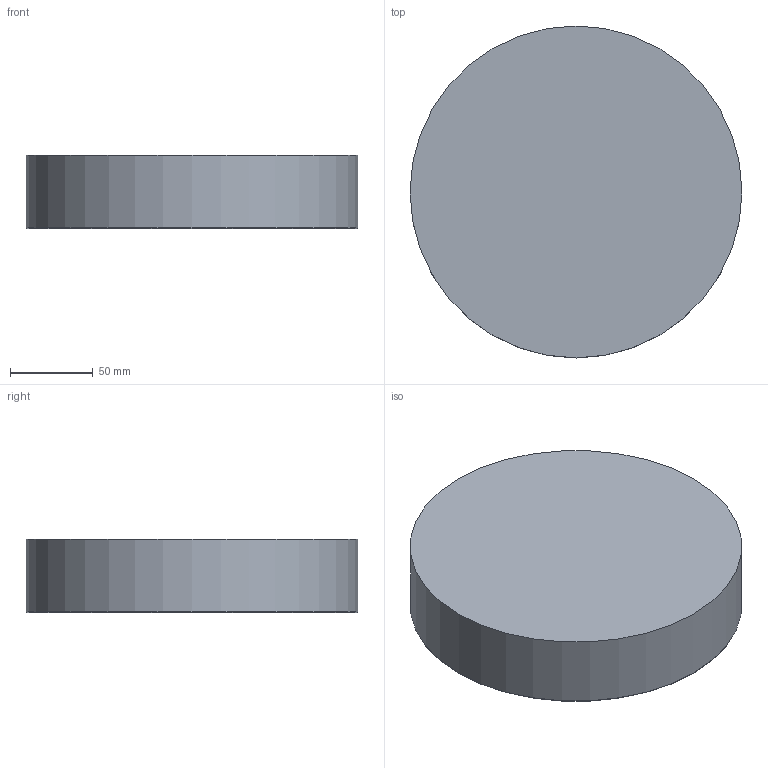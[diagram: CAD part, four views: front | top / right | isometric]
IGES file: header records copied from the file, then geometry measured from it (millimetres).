
Start section: SolidWorks IGES file using analytic representation for surfaces
Global section: file name: X:\PRODUKT\Modele 3D_WWW\_KOLEKCJE WWW\MERIDA-LED\MERIDA-LED-9514.IGS; native system: SolidWorks 2021; preprocessor: SolidWorks 2021; author: gabriela.tworek; date: 220919.111958; units: millimetre
Bounding box: 200 x 200 x 44 mm (x, y, z)
Surface area: 234973.5 mm2 (no closed solid volume)
Topology: 0 solids, 0 shells, 32 faces, 90 edges, 76 vertices
Faces by surface type: bspline 17, revolution 15
